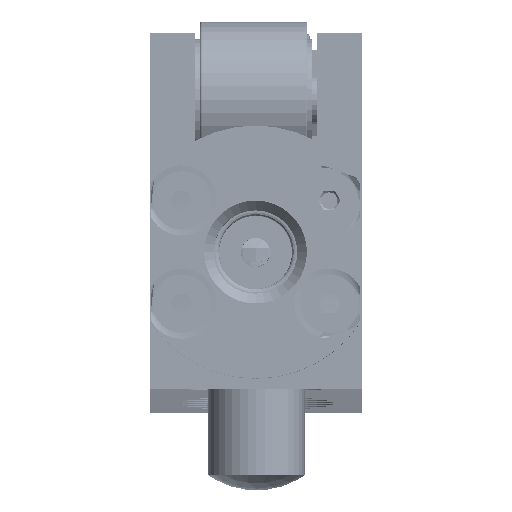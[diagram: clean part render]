
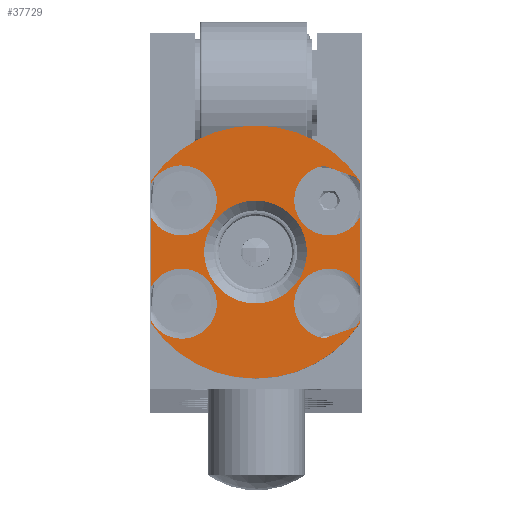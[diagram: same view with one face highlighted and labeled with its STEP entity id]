
A CAD part, top view. The second image highlights one B-rep face of the part: STEP entity #37729.
In plain terms, the highlighted planar face has unit normal (0, 0, 1).
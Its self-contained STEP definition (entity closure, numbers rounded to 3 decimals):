
#1370=FACE_BOUND('',#5927,.T.);
#1711=PLANE('',#41355);
#3628=FACE_OUTER_BOUND('',#5926,.T.);
#5926=EDGE_LOOP('',(#28705,#28706,#28707,#28708,#28709,#28710,#28711,#28712,
#28713,#28714,#28715,#28716,#28717,#28718,#28719,#28720));
#5927=EDGE_LOOP('',(#28721));
#7916=LINE('',#67840,#9331);
#7917=LINE('',#67843,#9332);
#7918=LINE('',#67847,#9333);
#7919=LINE('',#67851,#9334);
#7920=LINE('',#67855,#9335);
#7921=LINE('',#67859,#9336);
#7922=LINE('',#67863,#9337);
#7923=LINE('',#67866,#9338);
#9331=VECTOR('',#50303,10.);
#9332=VECTOR('',#50306,10.);
#9333=VECTOR('',#50309,10.);
#9334=VECTOR('',#50312,10.);
#9335=VECTOR('',#50315,10.);
#9336=VECTOR('',#50318,10.);
#9337=VECTOR('',#50321,10.);
#9338=VECTOR('',#50324,10.);
#11296=CIRCLE('',#41348,3.6);
#11299=CIRCLE('',#41351,3.6);
#11301=CIRCLE('',#41356,3.6);
#11302=CIRCLE('',#41357,3.6);
#11303=CIRCLE('',#41358,13.);
#11304=CIRCLE('',#41359,3.6);
#11305=CIRCLE('',#41360,3.6);
#11306=CIRCLE('',#41361,13.);
#11307=CIRCLE('',#41362,5.283);
#15439=VERTEX_POINT('',#67814);
#15440=VERTEX_POINT('',#67815);
#15441=VERTEX_POINT('',#67819);
#15445=VERTEX_POINT('',#67830);
#15447=VERTEX_POINT('',#67842);
#15448=VERTEX_POINT('',#67844);
#15449=VERTEX_POINT('',#67846);
#15450=VERTEX_POINT('',#67848);
#15451=VERTEX_POINT('',#67850);
#15452=VERTEX_POINT('',#67852);
#15453=VERTEX_POINT('',#67854);
#15454=VERTEX_POINT('',#67856);
#15455=VERTEX_POINT('',#67858);
#15456=VERTEX_POINT('',#67860);
#15457=VERTEX_POINT('',#67862);
#15458=VERTEX_POINT('',#67864);
#15459=VERTEX_POINT('',#67867);
#20289=EDGE_CURVE('',#15441,#15439,#11296,.T.);
#20295=EDGE_CURVE('',#15440,#15445,#11299,.T.);
#20298=EDGE_CURVE('',#15445,#15441,#7916,.T.);
#20299=EDGE_CURVE('',#15439,#15447,#7917,.T.);
#20300=EDGE_CURVE('',#15447,#15448,#11301,.T.);
#20301=EDGE_CURVE('',#15448,#15449,#7918,.T.);
#20302=EDGE_CURVE('',#15449,#15450,#11302,.T.);
#20303=EDGE_CURVE('',#15450,#15451,#7919,.T.);
#20304=EDGE_CURVE('',#15452,#15451,#11303,.T.);
#20305=EDGE_CURVE('',#15452,#15453,#7920,.T.);
#20306=EDGE_CURVE('',#15453,#15454,#11304,.T.);
#20307=EDGE_CURVE('',#15454,#15455,#7921,.T.);
#20308=EDGE_CURVE('',#15455,#15456,#11305,.T.);
#20309=EDGE_CURVE('',#15456,#15457,#7922,.T.);
#20310=EDGE_CURVE('',#15458,#15457,#11306,.T.);
#20311=EDGE_CURVE('',#15458,#15440,#7923,.T.);
#20312=EDGE_CURVE('',#15459,#15459,#11307,.T.);
#28705=ORIENTED_EDGE('',*,*,#20295,.T.);
#28706=ORIENTED_EDGE('',*,*,#20298,.T.);
#28707=ORIENTED_EDGE('',*,*,#20289,.T.);
#28708=ORIENTED_EDGE('',*,*,#20299,.T.);
#28709=ORIENTED_EDGE('',*,*,#20300,.T.);
#28710=ORIENTED_EDGE('',*,*,#20301,.T.);
#28711=ORIENTED_EDGE('',*,*,#20302,.T.);
#28712=ORIENTED_EDGE('',*,*,#20303,.T.);
#28713=ORIENTED_EDGE('',*,*,#20304,.F.);
#28714=ORIENTED_EDGE('',*,*,#20305,.T.);
#28715=ORIENTED_EDGE('',*,*,#20306,.T.);
#28716=ORIENTED_EDGE('',*,*,#20307,.T.);
#28717=ORIENTED_EDGE('',*,*,#20308,.T.);
#28718=ORIENTED_EDGE('',*,*,#20309,.T.);
#28719=ORIENTED_EDGE('',*,*,#20310,.F.);
#28720=ORIENTED_EDGE('',*,*,#20311,.T.);
#28721=ORIENTED_EDGE('',*,*,#20312,.F.);
#37729=ADVANCED_FACE('',(#3628,#1370),#1711,.T.);
#41348=AXIS2_PLACEMENT_3D('',#67820,#50287,#50288);
#41351=AXIS2_PLACEMENT_3D('',#67834,#50294,#50295);
#41355=AXIS2_PLACEMENT_3D('',#67841,#50304,#50305);
#41356=AXIS2_PLACEMENT_3D('',#67845,#50307,#50308);
#41357=AXIS2_PLACEMENT_3D('',#67849,#50310,#50311);
#41358=AXIS2_PLACEMENT_3D('',#67853,#50313,#50314);
#41359=AXIS2_PLACEMENT_3D('',#67857,#50316,#50317);
#41360=AXIS2_PLACEMENT_3D('',#67861,#50319,#50320);
#41361=AXIS2_PLACEMENT_3D('',#67865,#50322,#50323);
#41362=AXIS2_PLACEMENT_3D('',#67868,#50325,#50326);
#50287=DIRECTION('center_axis',(0.,0.,-1.));
#50288=DIRECTION('ref_axis',(-0.342,0.94,0.));
#50294=DIRECTION('center_axis',(0.,0.,-1.));
#50295=DIRECTION('ref_axis',(-0.342,0.94,0.));
#50303=DIRECTION('',(-0.94,-0.342,0.));
#50304=DIRECTION('center_axis',(0.,0.,1.));
#50305=DIRECTION('ref_axis',(1.,0.,0.));
#50306=DIRECTION('',(0.,1.,0.));
#50307=DIRECTION('center_axis',(0.,0.,-1.));
#50308=DIRECTION('ref_axis',(-0.342,-0.94,0.));
#50309=DIRECTION('',(0.94,-0.342,0.));
#50310=DIRECTION('center_axis',(0.,0.,-1.));
#50311=DIRECTION('ref_axis',(-0.342,-0.94,0.));
#50312=DIRECTION('',(0.,1.,0.));
#50313=DIRECTION('center_axis',(0.,0.,-1.));
#50314=DIRECTION('ref_axis',(0.,1.,0.));
#50315=DIRECTION('',(0.,-1.,0.));
#50316=DIRECTION('center_axis',(0.,0.,-1.));
#50317=DIRECTION('ref_axis',(1.,0.,0.));
#50318=DIRECTION('',(0.,-1.,0.));
#50319=DIRECTION('center_axis',(0.,0.,-1.));
#50320=DIRECTION('ref_axis',(1.,0.,0.));
#50321=DIRECTION('',(0.,-1.,0.));
#50322=DIRECTION('center_axis',(0.,0.,-1.));
#50323=DIRECTION('ref_axis',(0.,1.,0.));
#50324=DIRECTION('',(0.,1.,0.));
#50325=DIRECTION('center_axis',(0.,0.,1.));
#50326=DIRECTION('ref_axis',(-1.,0.,0.));
#67814=CARTESIAN_POINT('',(10.7,-7.855,1096.));
#67815=CARTESIAN_POINT('',(10.7,-11.256,1096.));
#67819=CARTESIAN_POINT('',(7.014,-13.119,1096.));
#67820=CARTESIAN_POINT('Origin',(7.527,-9.556,1096.));
#67830=CARTESIAN_POINT('',(10.211,-11.955,1096.));
#67834=CARTESIAN_POINT('Origin',(7.527,-9.556,1096.));
#67840=CARTESIAN_POINT('',(8.106,-12.721,1096.));
#67841=CARTESIAN_POINT('Origin',(-0.05,2.25,1096.));
#67842=CARTESIAN_POINT('',(10.7,-0.645,1096.));
#67843=CARTESIAN_POINT('',(10.7,-4.655,1096.));
#67844=CARTESIAN_POINT('',(7.014,4.619,1096.));
#67845=CARTESIAN_POINT('Origin',(7.527,1.056,1096.));
#67846=CARTESIAN_POINT('',(10.211,3.455,1096.));
#67847=CARTESIAN_POINT('',(6.017,4.982,1096.));
#67848=CARTESIAN_POINT('',(10.7,2.756,1096.));
#67849=CARTESIAN_POINT('Origin',(7.527,1.056,1096.));
#67850=CARTESIAN_POINT('',(10.7,3.06,1096.));
#67851=CARTESIAN_POINT('',(10.7,-4.655,1096.));
#67852=CARTESIAN_POINT('',(-10.8,3.06,1096.));
#67853=CARTESIAN_POINT('Origin',(-0.05,-4.25,1096.));
#67854=CARTESIAN_POINT('',(-10.8,2.756,1096.));
#67855=CARTESIAN_POINT('',(-10.8,2.655,1096.));
#67856=CARTESIAN_POINT('',(-10.8,-0.645,1096.));
#67857=CARTESIAN_POINT('Origin',(-7.627,1.056,1096.));
#67858=CARTESIAN_POINT('',(-10.8,-7.855,1096.));
#67859=CARTESIAN_POINT('',(-10.8,2.655,1096.));
#67860=CARTESIAN_POINT('',(-10.8,-11.256,1096.));
#67861=CARTESIAN_POINT('Origin',(-7.627,-9.556,1096.));
#67862=CARTESIAN_POINT('',(-10.8,-11.56,1096.));
#67863=CARTESIAN_POINT('',(-10.8,2.655,1096.));
#67864=CARTESIAN_POINT('',(10.7,-11.56,1096.));
#67865=CARTESIAN_POINT('Origin',(-0.05,-4.25,1096.));
#67866=CARTESIAN_POINT('',(10.7,-4.655,1096.));
#67867=CARTESIAN_POINT('',(5.233,-4.25,1096.));
#67868=CARTESIAN_POINT('Origin',(-0.05,-4.25,1096.));
